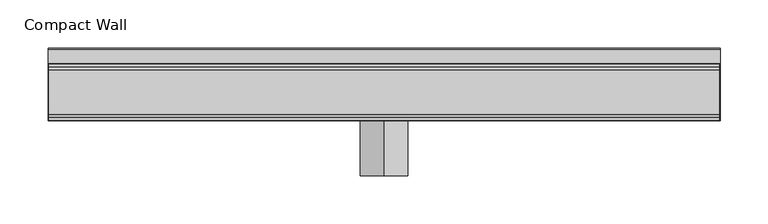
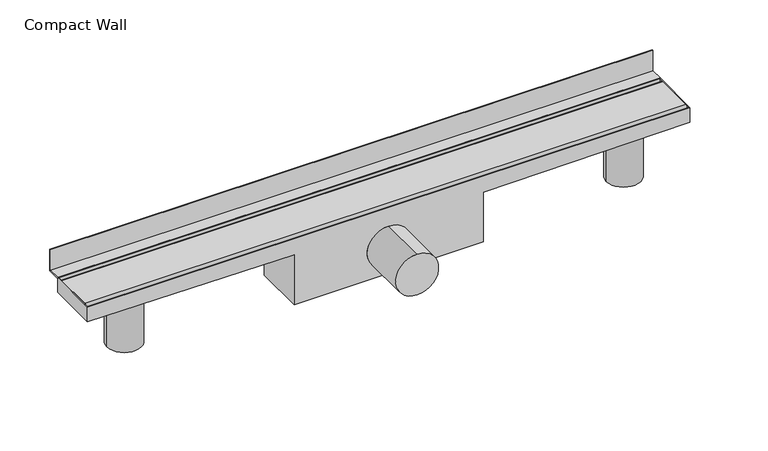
"""IFC4 building model written with IfcOpenShell, lengths in millimetres: sanitary terminal geometry, NLRS_PF_52_UN_Compact_Easydrain : Compact Wall."""

from ifc_helpers import new_model, si_unit, point, frame, frame_2d, origin, place, context, project, spatial, polyline, circle_curve, trimmed, segment, composite_curve, outline, extrude, source, transform, mapped, element, save
from ifc_brep_helpers import plane_surface, cylinder_surface, advanced_brep


def compact_wall_831ec387(model_context):
    return source(origin(), model_context, "Body", "SolidModel", [
        extrude(outline(composite_curve([segment(polyline([(-23.0, 0.0), (23.0, 0.0)]), True, "CONTINUOUS"), segment(trimmed(circle_curve(frame_2d((23.0, -3.0)), 3.0), [point((23.0, 0.0))], [point((26.0, -3.0))], False, "CARTESIAN"), True, "CONTINUOUS"), segment(polyline([(26.0, -3.0), (26.0, -12.0), (-26.0, -12.0), (-26.0, -3.0)]), True, "CONTINUOUS"), segment(trimmed(circle_curve(frame_2d((-23.0, -3.0)), 3.0), [point((-26.0, -3.0))], [point((-23.0, 0.0))], False, "CARTESIAN"), True, "CONTINUOUS")], self_intersect=False)), frame((-249.0, 0.0, 0.0), z_axis=(1.0, 0.0, 0.0), x_axis=(0.0, 1.0, 0.0)), (0.0, 0.0, 1.0), 698.0),
        extrude(outline(composite_curve([segment(trimmed(circle_curve(frame_2d((390.0, 0.0)), 20.0), [point((410.0, 0.0))], [point((370.0, 0.0))], False, "CARTESIAN"), True, "CONTINUOUS"), segment(trimmed(circle_curve(frame_2d((390.0, 0.0)), 20.0), [point((370.0, 0.0))], [point((410.0, 0.0))], False, "CARTESIAN"), True, "CONTINUOUS")], self_intersect=False)), frame((0.0, 0.0, -81.0), z_axis=(0.0, 0.0, 1.0), x_axis=(1.0, 0.0, 0.0)), (0.0, 0.0, 1.0), 63.0),
        extrude(outline(composite_curve([segment(trimmed(circle_curve(frame_2d((-190.0, 0.0)), 20.0), [point((-210.0, 0.0))], [point((-170.0, 0.0))], False, "CARTESIAN"), True, "CONTINUOUS"), segment(trimmed(circle_curve(frame_2d((-190.0, 0.0)), 20.0), [point((-170.0, 0.0))], [point((-210.0, 0.0))], False, "CARTESIAN"), True, "CONTINUOUS")], self_intersect=False)), frame((0.0, 0.0, -81.0), z_axis=(0.0, 0.0, 1.0), x_axis=(1.0, 0.0, 0.0)), (0.0, 0.0, 1.0), 63.0),
        extrude(outline(polyline([(46.0, -1.5), (30.0, -1.5), (30.0, 0.0), (44.5, 0.0), (44.5, 25.0), (46.0, 25.0), (46.0, -1.5)])), frame((-250.0, 0.0, 0.0), z_axis=(1.0, 0.0, 0.0), x_axis=(0.0, 1.0, 0.0)), (0.0, 0.0, 1.0), 700.0),
        advanced_brep(
        [(-250.0, -30.0, -18.0), (-10.0, -30.0, -20.0), (-10.0, -30.0, -81.0), (210.0, -30.0, -81.0), (210.0, -30.0, -20.0), (450.0, -30.0, -18.0), (450.0, -30.0, 0.0), (-250.0, -30.0, 0.0), (100.0, -30.0, -23.0), (100.0, -30.0, -73.0), (-250.0, 30.0, -18.0), (-250.0, 30.0, 0.0), (450.0, 30.0, 0.0), (450.0, 30.0, -18.0), (210.0, 30.0, -20.0), (210.0, 30.0, -81.0), (-10.0, 30.0, -81.0), (-10.0, 30.0, -20.0), (-249.0, 29.0, 0.0), (449.0, 29.0, 0.0), (449.0, -29.0, 0.0), (-249.0, -29.0, 0.0), (100.0, -87.0466767, -23.0), (100.0, -87.0466767, -73.0), (449.0, 29.0, -12.0), (-249.0, 29.0, -12.0), (-249.0, -29.0, -12.0), (449.0, -29.0, -12.0)],
        [
            (0, 1),
            (1, 2),
            (2, 3),
            (3, 4),
            (4, 5),
            (5, 6),
            (6, 7),
            (7, 0),
            (8, 9, circle_curve(frame((100.0, -30.0, -48.0), z_axis=(0.0, 1.0, 0.0), x_axis=(0.0, 0.0, -1.0)), 25.0)),
            (9, 8, circle_curve(frame((100.0, -30.0, -48.0), z_axis=(0.0, 1.0, 0.0), x_axis=(0.0, 0.0, -1.0)), 25.0)),
            (10, 11),
            (11, 12),
            (12, 13),
            (13, 14),
            (14, 15),
            (15, 16),
            (16, 17),
            (17, 10),
            (0, 10),
            (17, 1),
            (5, 13),
            (12, 6),
            (11, 7),
            (18, 19),
            (19, 20),
            (20, 21),
            (21, 18),
            (16, 2),
            (15, 3),
            (14, 4),
            (22, 23, circle_curve(frame((100.0, -87.0466767, -48.0), z_axis=(0.0, -1.0, 0.0), x_axis=(0.0, 0.0, -1.0)), 25.0)),
            (23, 22, circle_curve(frame((100.0, -87.0466767, -48.0), z_axis=(0.0, -1.0, 0.0), x_axis=(0.0, 0.0, -1.0)), 25.0)),
            (23, 9),
            (8, 22),
            (24, 25),
            (25, 26),
            (26, 27),
            (27, 24),
            (24, 19),
            (18, 25),
            (21, 26),
            (20, 27),
        ],
        [
            plane_surface(frame((-250.0, -30.0, -18.0), z_axis=(0.0, -1.0, 0.0), x_axis=(0.9999652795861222, 0.0, -0.008333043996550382))),
            plane_surface(frame((-250.0, 30.0, -18.0), z_axis=(0.0, 1.0, 0.0), x_axis=(-0.9999652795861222, 0.0, 0.008333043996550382))),
            plane_surface(frame((-250.0, -30.0, -18.0), z_axis=(-0.008333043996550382, 0.0, -0.9999652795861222), x_axis=(0.0, 1.0, 0.0))),
            plane_surface(frame((450.0, -30.0, -18.0), z_axis=(1.0, 0.0, 0.0), x_axis=(0.0, 1.0, 0.0))),
            plane_surface(frame((450.0, -30.0, 0.0), z_axis=(0.0, 0.0, 1.0), x_axis=(0.0, 1.0, 0.0))),
            plane_surface(frame((-250.0, -30.0, 0.0), z_axis=(-1.0, 0.0, 0.0), x_axis=(0.0, 1.0, 0.0))),
            plane_surface(frame((-10.0, -30.0, -20.0), z_axis=(-1.0, 0.0, 0.0), x_axis=(0.0, 1.0, 0.0))),
            plane_surface(frame((-10.0, -30.0, -81.0), z_axis=(0.0, 0.0, -1.0), x_axis=(0.0, 1.0, 0.0))),
            plane_surface(frame((210.0, -30.0, -81.0), z_axis=(1.0, 0.0, 0.0), x_axis=(0.0, 1.0, 0.0))),
            plane_surface(frame((210.0, -30.0, -20.0), z_axis=(0.008333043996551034, 0.0, -0.9999652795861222), x_axis=(0.0, 1.0, 0.0))),
            plane_surface(frame((100.0, -87.0466767, -48.0), z_axis=(0.0, -1.0, 0.0), x_axis=(1.0, 0.0, 0.0))),
            cylinder_surface(frame((100.0, 0.0, -48.0), z_axis=(0.0, 1.0, 0.0), x_axis=(0.0, 0.0, -1.0)), 25.0),
            plane_surface(frame((-249.0, 29.0, -12.0), z_axis=(0.0, 0.0, 1.0), x_axis=(1.0, 0.0, 0.0))),
            plane_surface(frame((449.0, 29.0, 0.0), z_axis=(0.0, -1.0, 0.0), x_axis=(0.0, 0.0, -1.0))),
            plane_surface(frame((-249.0, 29.0, 0.0), z_axis=(1.0, 0.0, 0.0), x_axis=(0.0, 0.0, -1.0))),
            plane_surface(frame((-249.0, -29.0, 0.0), z_axis=(0.0, 1.0, 0.0), x_axis=(0.0, 0.0, -1.0))),
            plane_surface(frame((449.0, -29.0, 0.0), z_axis=(-1.0, 0.0, 0.0), x_axis=(0.0, 0.0, -1.0))),
        ],
        [
            (0, [[1, 2, 3, 4, 5, 6, 7, 8], [9, 10]]),
            (1, [[11, 12, 13, 14, 15, 16, 17, 18]]),
            (2, [[-1, 19, -18, 20]]),
            (3, [[-6, 21, -13, 22]]),
            (4, [[-7, -22, -12, 23], [24, 25, 26, 27]]),
            (5, [[-8, -23, -11, -19]]),
            (6, [[-2, -20, -17, 28]]),
            (7, [[-3, -28, -16, 29]]),
            (8, [[-4, -29, -15, 30]]),
            (9, [[-5, -30, -14, -21]]),
            (10, [[31, 32]]),
            (11, [[-32, 33, -9, 34]]),
            (11, [[-31, -34, -10, -33]]),
            (12, [[35, 36, 37, 38]]),
            (13, [[-35, 39, -24, 40]]),
            (14, [[-36, -40, -27, 41]]),
            (15, [[-37, -41, -26, 42]]),
            (16, [[-38, -42, -25, -39]]),
        ],
    ),
    ])


if __name__ == "__main__":
    model = new_model("IFC4")
    model_context = context("Model", 3, world=origin())
    ifc_project = project(units=[si_unit("LENGTHUNIT", "METRE", prefix="MILLI")], contexts=[model_context])
    site = spatial("IfcSite", under=ifc_project)
    building = spatial("IfcBuilding", under=site)
    placement = place(None, origin())
    compact_wall_shape = compact_wall_831ec387(model_context)
    element("IfcSanitaryTerminal", 1, ObjectType="NLRS_PF_52_UN_Compact_Easydrain : Compact Wall", at=placement, inside=building, context=model_context, shape_type="MappedRepresentation", body=[
        mapped(compact_wall_shape, transform((0.0, 0.0, 0.0), x_axis=(1.0, 0.0, 0.0), y_axis=(0.0, 1.0, 0.0), z_axis=(0.0, 0.0, 1.0))),
    ])
    save(model, "model.ifc")
